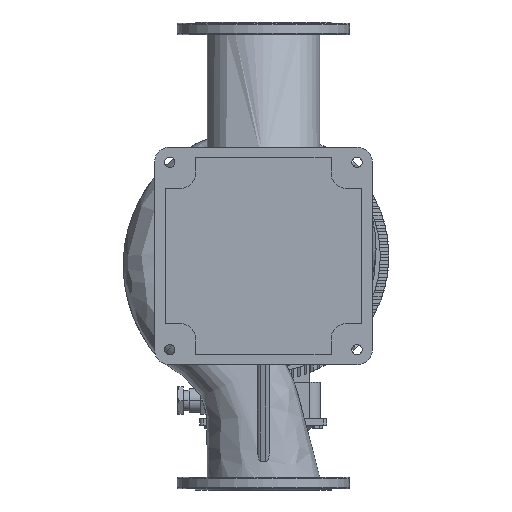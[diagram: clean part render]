
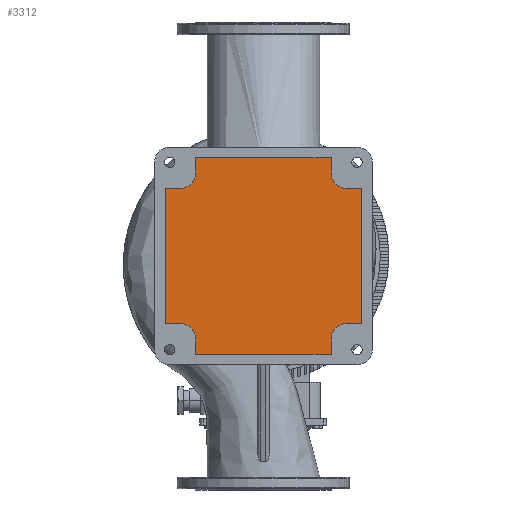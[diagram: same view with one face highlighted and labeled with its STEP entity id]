
A CAD part, front view. The second image highlights one B-rep face of the part: STEP entity #3312.
In plain terms, the highlighted planar face has unit normal (0, -1, 0).
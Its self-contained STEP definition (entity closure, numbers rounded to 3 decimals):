
#1341=PLANE('',#30989);
#3312=ADVANCED_FACE('',(#5673),#1341,.F.);
#5673=FACE_OUTER_BOUND('',#7419,.T.);
#7419=EDGE_LOOP('',(#13979,#13980,#13981,#13982,#13983,#13984,#13985,#13986,
#13987,#13988,#13989,#13990,#13991,#13992,#13993,#13994));
#9553=LINE('',#52140,#11225);
#9555=LINE('',#52144,#11227);
#9557=LINE('',#52148,#11229);
#9560=LINE('',#52156,#11232);
#9562=LINE('',#52160,#11234);
#9564=LINE('',#52164,#11236);
#9567=LINE('',#52172,#11239);
#9569=LINE('',#52176,#11241);
#9571=LINE('',#52180,#11243);
#9574=LINE('',#52188,#11246);
#9576=LINE('',#52192,#11248);
#9578=LINE('',#52196,#11250);
#11225=VECTOR('',#35246,1.);
#11227=VECTOR('',#35250,1.);
#11229=VECTOR('',#35254,1.);
#11232=VECTOR('',#35263,1.);
#11234=VECTOR('',#35267,1.);
#11236=VECTOR('',#35271,1.);
#11239=VECTOR('',#35280,1.);
#11241=VECTOR('',#35284,1.);
#11243=VECTOR('',#35288,1.);
#11246=VECTOR('',#35297,1.);
#11248=VECTOR('',#35301,1.);
#11250=VECTOR('',#35305,1.);
#13979=ORIENTED_EDGE('',*,*,#25054,.T.);
#13980=ORIENTED_EDGE('',*,*,#25084,.T.);
#13981=ORIENTED_EDGE('',*,*,#25082,.T.);
#13982=ORIENTED_EDGE('',*,*,#25080,.T.);
#13983=ORIENTED_EDGE('',*,*,#25078,.T.);
#13984=ORIENTED_EDGE('',*,*,#25076,.T.);
#13985=ORIENTED_EDGE('',*,*,#25074,.T.);
#13986=ORIENTED_EDGE('',*,*,#25072,.T.);
#13987=ORIENTED_EDGE('',*,*,#25070,.T.);
#13988=ORIENTED_EDGE('',*,*,#25068,.T.);
#13989=ORIENTED_EDGE('',*,*,#25066,.T.);
#13990=ORIENTED_EDGE('',*,*,#25064,.T.);
#13991=ORIENTED_EDGE('',*,*,#25062,.T.);
#13992=ORIENTED_EDGE('',*,*,#25060,.T.);
#13993=ORIENTED_EDGE('',*,*,#25058,.T.);
#13994=ORIENTED_EDGE('',*,*,#25056,.T.);
#22031=VERTEX_POINT('',#52135);
#22032=VERTEX_POINT('',#52137);
#22033=VERTEX_POINT('',#52141);
#22034=VERTEX_POINT('',#52145);
#22035=VERTEX_POINT('',#52149);
#22036=VERTEX_POINT('',#52153);
#22037=VERTEX_POINT('',#52157);
#22038=VERTEX_POINT('',#52161);
#22039=VERTEX_POINT('',#52165);
#22040=VERTEX_POINT('',#52169);
#22041=VERTEX_POINT('',#52173);
#22042=VERTEX_POINT('',#52177);
#22043=VERTEX_POINT('',#52181);
#22044=VERTEX_POINT('',#52185);
#22045=VERTEX_POINT('',#52189);
#22046=VERTEX_POINT('',#52193);
#25054=EDGE_CURVE('',#22032,#22031,#29099,.T.);
#25056=EDGE_CURVE('',#22033,#22032,#9553,.T.);
#25058=EDGE_CURVE('',#22034,#22033,#9555,.T.);
#25060=EDGE_CURVE('',#22035,#22034,#9557,.T.);
#25062=EDGE_CURVE('',#22036,#22035,#29100,.T.);
#25064=EDGE_CURVE('',#22037,#22036,#9560,.T.);
#25066=EDGE_CURVE('',#22038,#22037,#9562,.T.);
#25068=EDGE_CURVE('',#22039,#22038,#9564,.T.);
#25070=EDGE_CURVE('',#22040,#22039,#29101,.T.);
#25072=EDGE_CURVE('',#22041,#22040,#9567,.T.);
#25074=EDGE_CURVE('',#22042,#22041,#9569,.T.);
#25076=EDGE_CURVE('',#22043,#22042,#9571,.T.);
#25078=EDGE_CURVE('',#22044,#22043,#29102,.T.);
#25080=EDGE_CURVE('',#22045,#22044,#9574,.T.);
#25082=EDGE_CURVE('',#22046,#22045,#9576,.T.);
#25084=EDGE_CURVE('',#22031,#22046,#9578,.T.);
#29099=CIRCLE('',#30969,36.);
#29100=CIRCLE('',#30974,36.);
#29101=CIRCLE('',#30979,36.);
#29102=CIRCLE('',#30984,36.);
#30969=AXIS2_PLACEMENT_3D('',#52136,#35241,#35242);
#30974=AXIS2_PLACEMENT_3D('',#52152,#35258,#35259);
#30979=AXIS2_PLACEMENT_3D('',#52168,#35275,#35276);
#30984=AXIS2_PLACEMENT_3D('',#52184,#35292,#35293);
#30989=AXIS2_PLACEMENT_3D('',#52198,#35308,#35309);
#35241=DIRECTION('',(0.,1.,0.));
#35242=DIRECTION('',(0.,0.,1.));
#35246=DIRECTION('',(1.,0.,0.));
#35250=DIRECTION('',(0.,0.,-1.));
#35254=DIRECTION('',(-1.,0.,0.));
#35258=DIRECTION('',(0.,1.,0.));
#35259=DIRECTION('',(0.,0.,1.));
#35263=DIRECTION('',(0.,0.,-1.));
#35267=DIRECTION('',(-1.,0.,0.));
#35271=DIRECTION('',(0.,0.,1.));
#35275=DIRECTION('',(0.,1.,0.));
#35276=DIRECTION('',(0.,0.,1.));
#35280=DIRECTION('',(-1.,0.,0.));
#35284=DIRECTION('',(0.,0.,1.));
#35288=DIRECTION('',(1.,0.,0.));
#35292=DIRECTION('',(0.,1.,0.));
#35293=DIRECTION('',(0.,0.,1.));
#35297=DIRECTION('',(0.,0.,1.));
#35301=DIRECTION('',(1.,0.,0.));
#35305=DIRECTION('',(0.,0.,-1.));
#35308=DIRECTION('',(0.,1.,0.));
#35309=DIRECTION('',(0.,0.,-1.));
#52135=CARTESIAN_POINT('',(-159.,-295.,-195.));
#52136=CARTESIAN_POINT('',(-195.,-295.,-195.));
#52137=CARTESIAN_POINT('',(-195.,-295.,-159.));
#52140=CARTESIAN_POINT('',(-195.,-295.,-159.));
#52141=CARTESIAN_POINT('',(-231.,-295.,-159.));
#52144=CARTESIAN_POINT('',(-231.,-295.,-159.));
#52145=CARTESIAN_POINT('',(-231.,-295.,159.));
#52148=CARTESIAN_POINT('',(-195.,-295.,159.));
#52149=CARTESIAN_POINT('',(-195.,-295.,159.));
#52152=CARTESIAN_POINT('',(-195.,-295.,195.));
#52153=CARTESIAN_POINT('',(-159.,-295.,195.));
#52156=CARTESIAN_POINT('',(-159.,-295.,195.));
#52157=CARTESIAN_POINT('',(-159.,-295.,231.));
#52160=CARTESIAN_POINT('',(-159.,-295.,231.));
#52161=CARTESIAN_POINT('',(159.,-295.,231.));
#52164=CARTESIAN_POINT('',(159.,-295.,195.));
#52165=CARTESIAN_POINT('',(159.,-295.,195.));
#52168=CARTESIAN_POINT('',(195.,-295.,195.));
#52169=CARTESIAN_POINT('',(195.,-295.,159.));
#52172=CARTESIAN_POINT('',(195.,-295.,159.));
#52173=CARTESIAN_POINT('',(231.,-295.,159.));
#52176=CARTESIAN_POINT('',(231.,-295.,159.));
#52177=CARTESIAN_POINT('',(231.,-295.,-159.));
#52180=CARTESIAN_POINT('',(195.,-295.,-159.));
#52181=CARTESIAN_POINT('',(195.,-295.,-159.));
#52184=CARTESIAN_POINT('',(195.,-295.,-195.));
#52185=CARTESIAN_POINT('',(159.,-295.,-195.));
#52188=CARTESIAN_POINT('',(159.,-295.,-195.));
#52189=CARTESIAN_POINT('',(159.,-295.,-231.));
#52192=CARTESIAN_POINT('',(159.,-295.,-231.));
#52193=CARTESIAN_POINT('',(-159.,-295.,-231.));
#52196=CARTESIAN_POINT('',(-159.,-295.,-195.));
#52198=CARTESIAN_POINT('',(-195.,-295.,-195.));
